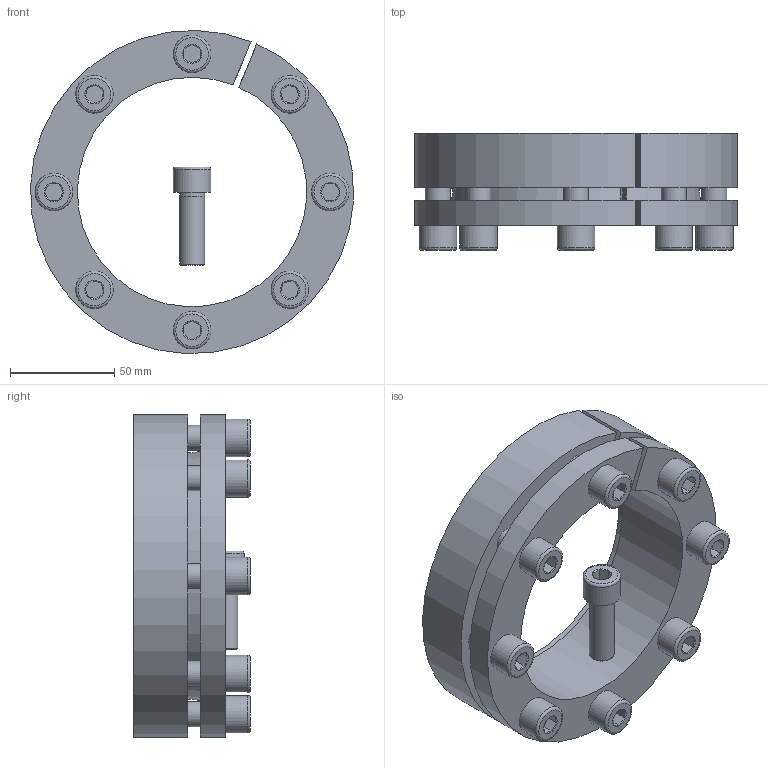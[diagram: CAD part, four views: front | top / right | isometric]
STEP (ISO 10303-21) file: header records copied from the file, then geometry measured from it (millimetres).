
FILE_DESCRIPTION( ( 'Unknown' ), '1' );
FILE_NAME( 'C:/Dokumente und Einstellungen/Sven/Desktop/homepage/cad - homepage/KBS13/KBS 13 - 110 x 155.stp', 'Unknown', ( 'Unknown' ), ( 'Unknown' ), 'XStep 1.0', 'Unknown', ' ' );
FILE_SCHEMA( ( 'automotive_design' ) );
Length unit declared in the file: millimetre
Products named in the file (3): Assem1; KBS 13 - 110 x 155; ISO EN DIN 4762 M12x35
Bounding box: 154.83 x 56 x 154.89 mm (x, y, z)
Volume: 714978.8 mm3; surface area: 183052.2 mm2
Topology: 11 solids, 11 shells, 281 faces, 573 edges, 350 vertices
Faces by surface type: plane 122, cylinder 74, cone 67, torus 18
Full cylindrical faces by diameter (mm): 11 x9, 12 x50, 18 x9
Entity records: 1774 total; most frequent: CARTESIAN_POINT 293, DIRECTION 272, ORIENTED_EDGE 194, AXIS2_PLACEMENT_3D 122, EDGE_LOOP 112, EDGE_CURVE 97, FACE_OUTER_BOUND 75, VERTEX_POINT 75
